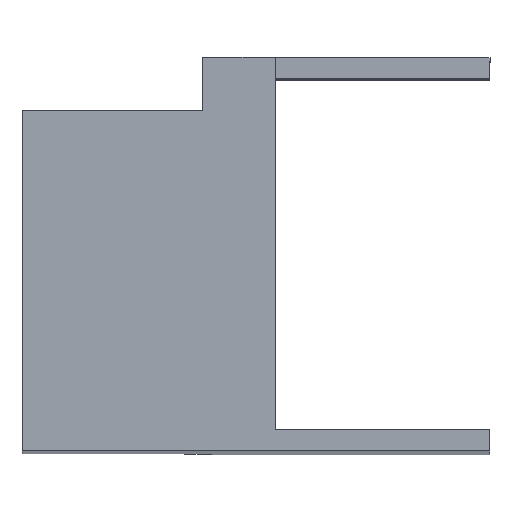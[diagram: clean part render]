
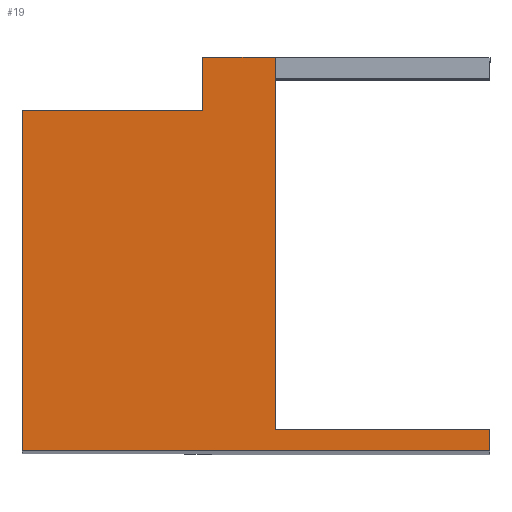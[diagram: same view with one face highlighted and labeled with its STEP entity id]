
A CAD part, top view. The second image highlights one B-rep face of the part: STEP entity #19.
In plain terms, the highlighted planar face has unit normal (0, 0, 1).
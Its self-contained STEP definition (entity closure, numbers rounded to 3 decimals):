
#19 = ADVANCED_FACE ( 'NONE', ( #677 ), #84, .F. ) ;
#43 = CARTESIAN_POINT ( 'NONE',  ( 4., -16.5, 48.6 ) ) ;
#61 = VERTEX_POINT ( 'NONE', #198 ) ;
#64 = DIRECTION ( 'NONE',  ( 0., 0., -1. ) ) ;
#79 = CARTESIAN_POINT ( 'NONE',  ( 4., -17.5, 48.6 ) ) ;
#84 = PLANE ( 'NONE',  #453 ) ;
#85 = DIRECTION ( 'NONE',  ( 0., 1., 0. ) ) ;
#86 = CARTESIAN_POINT ( 'NONE',  ( -18., -1.5, 48.6 ) ) ;
#87 = VERTEX_POINT ( 'NONE', #194 ) ;
#141 = VERTEX_POINT ( 'NONE', #157 ) ;
#152 = DIRECTION ( 'NONE',  ( 0., 1., 0. ) ) ;
#157 = CARTESIAN_POINT ( 'NONE',  ( -9.5, 1., 48.6 ) ) ;
#194 = CARTESIAN_POINT ( 'NONE',  ( -18., -17.5, 48.6 ) ) ;
#198 = CARTESIAN_POINT ( 'NONE',  ( -6.1, -16.5, 48.6 ) ) ;
#221 = CARTESIAN_POINT ( 'NONE',  ( 4., -16.5, 48.6 ) ) ;
#236 = DIRECTION ( 'NONE',  ( 1., 0., 0. ) ) ;
#250 = DIRECTION ( 'NONE',  ( 1., 0., 0. ) ) ;
#268 = DIRECTION ( 'NONE',  ( 1., 0., 0. ) ) ;
#279 = DIRECTION ( 'NONE',  ( 0., -1., 0. ) ) ;
#288 = CARTESIAN_POINT ( 'NONE',  ( -9.5, -1.5, 48.6 ) ) ;
#292 = DIRECTION ( 'NONE',  ( 0., -1., 0. ) ) ;
#294 = CARTESIAN_POINT ( 'NONE',  ( -6.1, -16.5, 48.6 ) ) ;
#309 = VERTEX_POINT ( 'NONE', #221 ) ;
#314 = DIRECTION ( 'NONE',  ( 0., -1., 0. ) ) ;
#343 = VERTEX_POINT ( 'NONE', #404 ) ;
#346 = CARTESIAN_POINT ( 'NONE',  ( -6.1, 1., 48.6 ) ) ;
#349 = DIRECTION ( 'NONE',  ( -1., 0., 0. ) ) ;
#350 = CARTESIAN_POINT ( 'NONE',  ( -18., -17.5, 48.6 ) ) ;
#352 = CARTESIAN_POINT ( 'NONE',  ( -18., -17.5, 48.6 ) ) ;
#398 = CARTESIAN_POINT ( 'NONE',  ( -9.5, 1., 48.6 ) ) ;
#399 = CARTESIAN_POINT ( 'NONE',  ( -18., -1.5, 48.6 ) ) ;
#404 = CARTESIAN_POINT ( 'NONE',  ( -6.1, 1., 48.6 ) ) ;
#409 = CARTESIAN_POINT ( 'NONE',  ( 4., -17.5, 48.6 ) ) ;
#414 = CARTESIAN_POINT ( 'NONE',  ( -9.5, -1.5, 48.6 ) ) ;
#438 = VERTEX_POINT ( 'NONE', #399 ) ;
#441 = VERTEX_POINT ( 'NONE', #414 ) ;
#445 = VERTEX_POINT ( 'NONE', #409 ) ;
#453 = AXIS2_PLACEMENT_3D ( 'NONE', #352, #64, #314 ) ;
#455 = EDGE_CURVE ( 'NONE', #441, #141, #696, .T. ) ;
#467 = EDGE_CURVE ( 'NONE', #87, #438, #701, .T. ) ;
#474 = EDGE_CURVE ( 'NONE', #438, #441, #716, .T. ) ;
#486 = EDGE_CURVE ( 'NONE', #141, #343, #735, .T. ) ;
#511 = EDGE_CURVE ( 'NONE', #445, #87, #935, .T. ) ;
#516 = EDGE_CURVE ( 'NONE', #61, #309, #955, .T. ) ;
#546 = EDGE_CURVE ( 'NONE', #343, #61, #768, .T. ) ;
#579 = EDGE_CURVE ( 'NONE', #309, #445, #989, .T. ) ;
#657 = VECTOR ( 'NONE', #85, 1000. ) ;
#677 = FACE_OUTER_BOUND ( 'NONE', #814, .T. ) ;
#696 = LINE ( 'NONE', #398, #657 ) ;
#701 = LINE ( 'NONE', #86, #703 ) ;
#703 = VECTOR ( 'NONE', #152, 1000. ) ;
#713 = VECTOR ( 'NONE', #268, 1000. ) ;
#716 = LINE ( 'NONE', #288, #713 ) ;
#734 = VECTOR ( 'NONE', #236, 1000. ) ;
#735 = LINE ( 'NONE', #346, #734 ) ;
#765 = VECTOR ( 'NONE', #250, 1000. ) ;
#768 = LINE ( 'NONE', #294, #929 ) ;
#782 = ORIENTED_EDGE ( 'NONE', *, *, #511, .F. ) ;
#808 = ORIENTED_EDGE ( 'NONE', *, *, #546, .F. ) ;
#814 = EDGE_LOOP ( 'NONE', ( #837, #782, #840, #939, #808, #897, #937, #842 ) ) ;
#837 = ORIENTED_EDGE ( 'NONE', *, *, #467, .F. ) ;
#840 = ORIENTED_EDGE ( 'NONE', *, *, #579, .F. ) ;
#842 = ORIENTED_EDGE ( 'NONE', *, *, #474, .F. ) ;
#897 = ORIENTED_EDGE ( 'NONE', *, *, #486, .F. ) ;
#929 = VECTOR ( 'NONE', #279, 1000. ) ;
#935 = LINE ( 'NONE', #350, #975 ) ;
#937 = ORIENTED_EDGE ( 'NONE', *, *, #455, .F. ) ;
#939 = ORIENTED_EDGE ( 'NONE', *, *, #516, .F. ) ;
#955 = LINE ( 'NONE', #43, #765 ) ;
#971 = VECTOR ( 'NONE', #292, 1000. ) ;
#975 = VECTOR ( 'NONE', #349, 1000. ) ;
#989 = LINE ( 'NONE', #79, #971 ) ;
